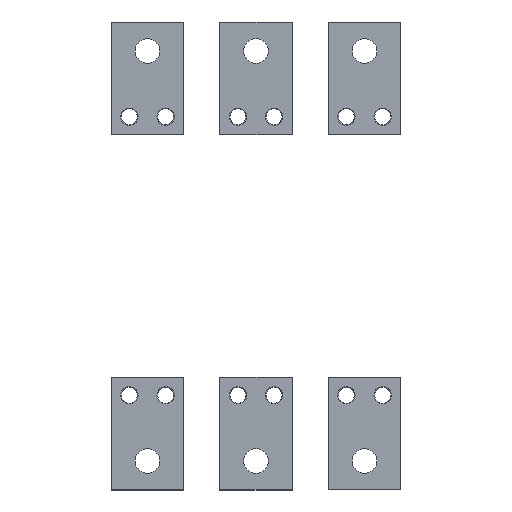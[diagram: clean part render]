
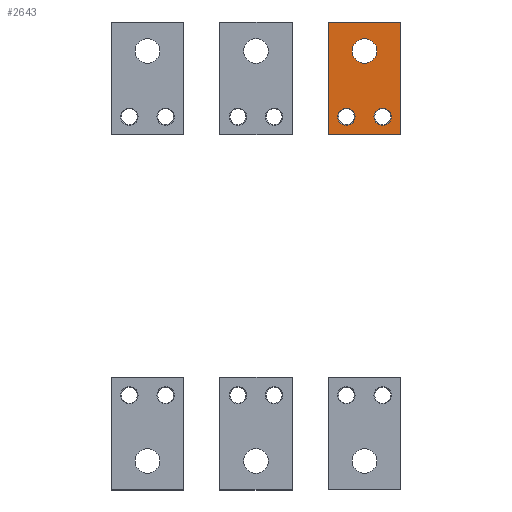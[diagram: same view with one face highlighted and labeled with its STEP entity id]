
A CAD part, top view. The second image highlights one B-rep face of the part: STEP entity #2643.
In plain terms, the highlighted planar face has unit normal (0, 0, 1).
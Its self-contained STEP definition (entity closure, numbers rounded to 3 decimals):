
#15 = DIRECTION ( 'NONE',  ( 0., 0., -1. ) ) ;
#28 = EDGE_LOOP ( 'NONE', ( #2027, #2915 ) ) ;
#216 = DIRECTION ( 'NONE',  ( -1., 0., 0. ) ) ;
#227 = CARTESIAN_POINT ( 'NONE',  ( 50., 83.7, 37.75 ) ) ;
#239 = VERTEX_POINT ( 'NONE', #1875 ) ;
#253 = DIRECTION ( 'NONE',  ( -1., 0., 0. ) ) ;
#326 = DIRECTION ( 'NONE',  ( -1., 0., 0. ) ) ;
#394 = ORIENTED_EDGE ( 'NONE', *, *, #1358, .T. ) ;
#452 = VERTEX_POINT ( 'NONE', #1582 ) ;
#463 = DIRECTION ( 'NONE',  ( 1., 0., 0. ) ) ;
#538 = LINE ( 'NONE', #728, #1156 ) ;
#600 = VERTEX_POINT ( 'NONE', #1305 ) ;
#673 = VERTEX_POINT ( 'NONE', #826 ) ;
#728 = CARTESIAN_POINT ( 'NONE',  ( 100., 83.7, 37.75 ) ) ;
#732 = ORIENTED_EDGE ( 'NONE', *, *, #1201, .T. ) ;
#826 = CARTESIAN_POINT ( 'NONE',  ( 50., 161.7, 37.75 ) ) ;
#841 = CARTESIAN_POINT ( 'NONE',  ( 100., 83.7, 37.75 ) ) ;
#862 = CARTESIAN_POINT ( 'NONE',  ( 100., 161.7, 37.75 ) ) ;
#892 = CARTESIAN_POINT ( 'NONE',  ( 62.5, 96.2, 37.75 ) ) ;
#897 = DIRECTION ( 'NONE',  ( 0., 1., 0. ) ) ;
#925 = CARTESIAN_POINT ( 'NONE',  ( 100., 161.7, 37.75 ) ) ;
#958 = FACE_BOUND ( 'NONE', #28, .T. ) ;
#981 = AXIS2_PLACEMENT_3D ( 'NONE', #2129, #2189, #2146 ) ;
#1091 = CIRCLE ( 'NONE', #981, 6. ) ;
#1094 = VECTOR ( 'NONE', #2229, 1000. ) ;
#1101 = CIRCLE ( 'NONE', #1456, 6. ) ;
#1156 = VECTOR ( 'NONE', #463, 1000. ) ;
#1193 = AXIS2_PLACEMENT_3D ( 'NONE', #2044, #1339, #3736 ) ;
#1201 = EDGE_CURVE ( 'NONE', #2253, #2340, #538, .T. ) ;
#1211 = CARTESIAN_POINT ( 'NONE',  ( 87.5, 96.2, 37.75 ) ) ;
#1259 = CARTESIAN_POINT ( 'NONE',  ( 66.5, 141.7, 37.75 ) ) ;
#1264 = CIRCLE ( 'NONE', #4285, 6. ) ;
#1295 = CIRCLE ( 'NONE', #4048, 8.5 ) ;
#1305 = CARTESIAN_POINT ( 'NONE',  ( 93.5, 96.2, 37.75 ) ) ;
#1339 = DIRECTION ( 'NONE',  ( 0., 0., 1. ) ) ;
#1358 = EDGE_CURVE ( 'NONE', #452, #239, #1264, .T. ) ;
#1456 = AXIS2_PLACEMENT_3D ( 'NONE', #1211, #2600, #216 ) ;
#1572 = DIRECTION ( 'NONE',  ( 0., 0., 1. ) ) ;
#1582 = CARTESIAN_POINT ( 'NONE',  ( 56.5, 96.2, 37.75 ) ) ;
#1643 = FACE_BOUND ( 'NONE', #2474, .T. ) ;
#1735 = VERTEX_POINT ( 'NONE', #2160 ) ;
#1760 = EDGE_CURVE ( 'NONE', #1735, #600, #1091, .T. ) ;
#1875 = CARTESIAN_POINT ( 'NONE',  ( 68.5, 96.2, 37.75 ) ) ;
#2027 = ORIENTED_EDGE ( 'NONE', *, *, #2048, .F. ) ;
#2044 = CARTESIAN_POINT ( 'NONE',  ( 75., 141.7, 37.75 ) ) ;
#2048 = EDGE_CURVE ( 'NONE', #2671, #2478, #3991, .T. ) ;
#2129 = CARTESIAN_POINT ( 'NONE',  ( 87.5, 96.2, 37.75 ) ) ;
#2145 = LINE ( 'NONE', #862, #3501 ) ;
#2146 = DIRECTION ( 'NONE',  ( -1., 0., 0. ) ) ;
#2151 = CARTESIAN_POINT ( 'NONE',  ( 100., 161.7, 37.75 ) ) ;
#2160 = CARTESIAN_POINT ( 'NONE',  ( 81.5, 96.2, 37.75 ) ) ;
#2188 = EDGE_LOOP ( 'NONE', ( #2245, #3301 ) ) ;
#2189 = DIRECTION ( 'NONE',  ( 0., 0., -1. ) ) ;
#2208 = AXIS2_PLACEMENT_3D ( 'NONE', #2151, #1572, #253 ) ;
#2223 = ORIENTED_EDGE ( 'NONE', *, *, #4392, .T. ) ;
#2229 = DIRECTION ( 'NONE',  ( 0., -1., 0. ) ) ;
#2245 = ORIENTED_EDGE ( 'NONE', *, *, #1760, .T. ) ;
#2253 = VERTEX_POINT ( 'NONE', #2752 ) ;
#2261 = DIRECTION ( 'NONE',  ( -1., 0., 0. ) ) ;
#2340 = VERTEX_POINT ( 'NONE', #841 ) ;
#2355 = EDGE_CURVE ( 'NONE', #600, #1735, #1101, .T. ) ;
#2366 = DIRECTION ( 'NONE',  ( -1., 0., 0. ) ) ;
#2376 = VERTEX_POINT ( 'NONE', #925 ) ;
#2474 = EDGE_LOOP ( 'NONE', ( #394, #3648 ) ) ;
#2478 = VERTEX_POINT ( 'NONE', #1259 ) ;
#2517 = AXIS2_PLACEMENT_3D ( 'NONE', #2684, #15, #2366 ) ;
#2551 = FACE_BOUND ( 'NONE', #2188, .T. ) ;
#2600 = DIRECTION ( 'NONE',  ( 0., 0., -1. ) ) ;
#2643 = ADVANCED_FACE ( 'NONE', ( #2551, #1643, #3652, #958 ), #3937, .T. ) ;
#2671 = VERTEX_POINT ( 'NONE', #3273 ) ;
#2684 = CARTESIAN_POINT ( 'NONE',  ( 62.5, 96.2, 37.75 ) ) ;
#2702 = CARTESIAN_POINT ( 'NONE',  ( 75., 141.7, 37.75 ) ) ;
#2752 = CARTESIAN_POINT ( 'NONE',  ( 50., 83.7, 37.75 ) ) ;
#2915 = ORIENTED_EDGE ( 'NONE', *, *, #3997, .F. ) ;
#3100 = LINE ( 'NONE', #227, #1094 ) ;
#3241 = DIRECTION ( 'NONE',  ( 0., 0., -1. ) ) ;
#3273 = CARTESIAN_POINT ( 'NONE',  ( 83.5, 141.7, 37.75 ) ) ;
#3301 = ORIENTED_EDGE ( 'NONE', *, *, #2355, .T. ) ;
#3501 = VECTOR ( 'NONE', #2261, 1000. ) ;
#3586 = ORIENTED_EDGE ( 'NONE', *, *, #3915, .T. ) ;
#3619 = LINE ( 'NONE', #3635, #4049 ) ;
#3623 = ORIENTED_EDGE ( 'NONE', *, *, #3678, .T. ) ;
#3635 = CARTESIAN_POINT ( 'NONE',  ( 100., 83.7, 37.75 ) ) ;
#3644 = EDGE_LOOP ( 'NONE', ( #3586, #2223, #3623, #732 ) ) ;
#3648 = ORIENTED_EDGE ( 'NONE', *, *, #4024, .T. ) ;
#3652 = FACE_OUTER_BOUND ( 'NONE', #3644, .T. ) ;
#3666 = DIRECTION ( 'NONE',  ( 0., 0., 1. ) ) ;
#3678 = EDGE_CURVE ( 'NONE', #673, #2253, #3100, .T. ) ;
#3736 = DIRECTION ( 'NONE',  ( -1., 0., 0. ) ) ;
#3889 = CIRCLE ( 'NONE', #2517, 6. ) ;
#3915 = EDGE_CURVE ( 'NONE', #2340, #2376, #3619, .T. ) ;
#3937 = PLANE ( 'NONE',  #2208 ) ;
#3991 = CIRCLE ( 'NONE', #1193, 8.5 ) ;
#3997 = EDGE_CURVE ( 'NONE', #2478, #2671, #1295, .T. ) ;
#4024 = EDGE_CURVE ( 'NONE', #239, #452, #3889, .T. ) ;
#4048 = AXIS2_PLACEMENT_3D ( 'NONE', #2702, #3666, #326 ) ;
#4049 = VECTOR ( 'NONE', #897, 1000. ) ;
#4248 = DIRECTION ( 'NONE',  ( -1., 0., 0. ) ) ;
#4285 = AXIS2_PLACEMENT_3D ( 'NONE', #892, #3241, #4248 ) ;
#4392 = EDGE_CURVE ( 'NONE', #2376, #673, #2145, .T. ) ;
